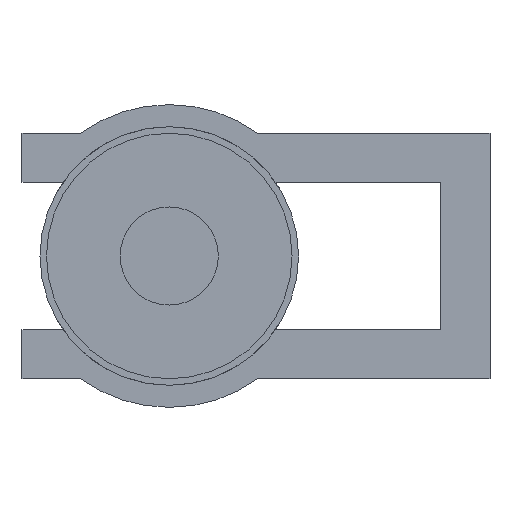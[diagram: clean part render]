
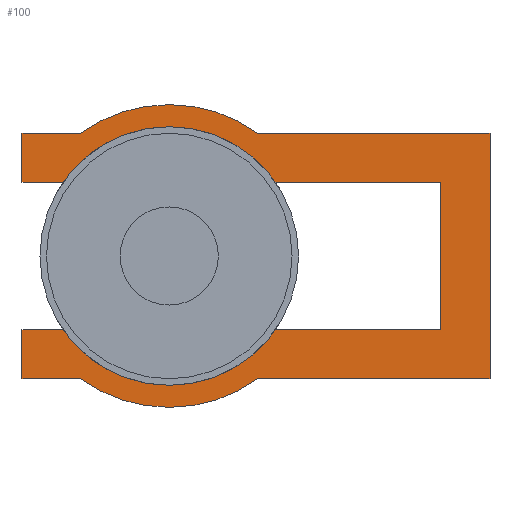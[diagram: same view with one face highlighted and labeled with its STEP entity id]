
A CAD part, left-side view. The second image highlights one B-rep face of the part: STEP entity #100.
In plain terms, the highlighted planar face has unit normal (-1, 0, 0).
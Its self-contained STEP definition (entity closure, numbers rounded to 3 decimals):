
#100=ADVANCED_FACE('',(#190),#191,.F.);
#190=FACE_OUTER_BOUND('',#327,.T.);
#191=PLANE('',#328);
#327=EDGE_LOOP('',(#569,#570,#571,#572,#573,#574,#575,#576,#577,#578,#579,#580,#581,#582,#583,#584));
#328=AXIS2_PLACEMENT_3D('',#585,#586,#587);
#569=ORIENTED_EDGE('',*,*,#844,.F.);
#570=ORIENTED_EDGE('',*,*,#896,.T.);
#571=ORIENTED_EDGE('',*,*,#897,.F.);
#572=ORIENTED_EDGE('',*,*,#898,.F.);
#573=ORIENTED_EDGE('',*,*,#899,.F.);
#574=ORIENTED_EDGE('',*,*,#900,.T.);
#575=ORIENTED_EDGE('',*,*,#891,.F.);
#576=ORIENTED_EDGE('',*,*,#901,.F.);
#577=ORIENTED_EDGE('',*,*,#902,.F.);
#578=ORIENTED_EDGE('',*,*,#863,.F.);
#579=ORIENTED_EDGE('',*,*,#895,.F.);
#580=ORIENTED_EDGE('',*,*,#903,.F.);
#581=ORIENTED_EDGE('',*,*,#904,.F.);
#582=ORIENTED_EDGE('',*,*,#905,.F.);
#583=ORIENTED_EDGE('',*,*,#878,.F.);
#584=ORIENTED_EDGE('',*,*,#872,.F.);
#585=CARTESIAN_POINT('',(-16.4,0.0,0.0));
#586=DIRECTION('',(1.0,0.0,0.0));
#587=DIRECTION('',(0.0,1.0,0.0));
#844=EDGE_CURVE('',#991,#993,#994,.T.);
#863=EDGE_CURVE('',#1027,#1029,#1030,.T.);
#872=EDGE_CURVE('',#993,#1044,#1045,.T.);
#878=EDGE_CURVE('',#1044,#1054,#1055,.T.);
#891=EDGE_CURVE('',#1076,#1078,#1079,.T.);
#895=EDGE_CURVE('',#1083,#1027,#1085,.T.);
#896=EDGE_CURVE('',#991,#1086,#1087,.T.);
#897=EDGE_CURVE('',#1088,#1086,#1089,.T.);
#898=EDGE_CURVE('',#1090,#1088,#1091,.T.);
#899=EDGE_CURVE('',#1092,#1090,#1093,.T.);
#900=EDGE_CURVE('',#1092,#1078,#1094,.T.);
#901=EDGE_CURVE('',#1095,#1076,#1096,.T.);
#902=EDGE_CURVE('',#1029,#1095,#1097,.T.);
#903=EDGE_CURVE('',#1098,#1083,#1099,.T.);
#904=EDGE_CURVE('',#1100,#1098,#1101,.T.);
#905=EDGE_CURVE('',#1054,#1100,#1102,.T.);
#991=VERTEX_POINT('',#1220);
#993=VERTEX_POINT('',#1223);
#994=LINE('',#1224,#1225);
#1027=VERTEX_POINT('',#1270);
#1029=VERTEX_POINT('',#1273);
#1030=CIRCLE('',#1274,9.25);
#1044=VERTEX_POINT('',#1292);
#1045=LINE('',#1293,#1294);
#1054=VERTEX_POINT('',#1308);
#1055=LINE('',#1309,#1310);
#1076=VERTEX_POINT('',#1337);
#1078=VERTEX_POINT('',#1340);
#1079=LINE('',#1341,#1342);
#1083=VERTEX_POINT('',#1348);
#1085=LINE('',#1351,#1352);
#1086=VERTEX_POINT('',#1353);
#1087=CIRCLE('',#1354,7.9);
#1088=VERTEX_POINT('',#1355);
#1089=LINE('',#1356,#1357);
#1090=VERTEX_POINT('',#1358);
#1091=LINE('',#1359,#1360);
#1092=VERTEX_POINT('',#1361);
#1093=LINE('',#1362,#1363);
#1094=CIRCLE('',#1364,7.9);
#1095=VERTEX_POINT('',#1365);
#1096=LINE('',#1366,#1367);
#1097=LINE('',#1368,#1369);
#1098=VERTEX_POINT('',#1370);
#1099=LINE('',#1371,#1372);
#1100=VERTEX_POINT('',#1373);
#1101=LINE('',#1374,#1375);
#1102=CIRCLE('',#1376,9.25);
#1220=CARTESIAN_POINT('',(-16.4,6.493,4.5));
#1223=CARTESIAN_POINT('',(-16.4,9.0,4.5));
#1224=CARTESIAN_POINT('',(-16.4,4.337,4.5));
#1225=VECTOR('',#1506,1.0);
#1270=CARTESIAN_POINT('',(-16.4,-5.414,-7.5));
#1273=CARTESIAN_POINT('',(-16.4,5.414,-7.5));
#1274=AXIS2_PLACEMENT_3D('',#1535,#1536,#1537);
#1292=CARTESIAN_POINT('',(-16.4,9.0,7.5));
#1293=CARTESIAN_POINT('',(-16.4,9.0,4.5));
#1294=VECTOR('',#1554,1.0);
#1308=CARTESIAN_POINT('',(-16.4,5.414,7.5));
#1309=CARTESIAN_POINT('',(-16.4,9.0,7.5));
#1310=VECTOR('',#1560,1.0);
#1337=CARTESIAN_POINT('',(-16.4,9.0,-4.5));
#1340=CARTESIAN_POINT('',(-16.4,6.493,-4.5));
#1341=CARTESIAN_POINT('',(-16.4,9.0,-4.5));
#1342=VECTOR('',#1583,1.0);
#1348=CARTESIAN_POINT('',(-16.4,-19.6,-7.5));
#1351=CARTESIAN_POINT('',(-16.4,-19.6,-7.5));
#1352=VECTOR('',#1587,1.0);
#1353=CARTESIAN_POINT('',(-16.4,-6.493,4.5));
#1354=AXIS2_PLACEMENT_3D('',#1588,#1589,#1590);
#1355=CARTESIAN_POINT('',(-16.4,-16.6,4.5));
#1356=CARTESIAN_POINT('',(-16.4,-16.6,4.5));
#1357=VECTOR('',#1591,1.0);
#1358=CARTESIAN_POINT('',(-16.4,-16.6,-4.5));
#1359=CARTESIAN_POINT('',(-16.4,-16.6,-4.5));
#1360=VECTOR('',#1592,1.0);
#1361=CARTESIAN_POINT('',(-16.4,-6.493,-4.5));
#1362=CARTESIAN_POINT('',(-16.4,-4.337,-4.5));
#1363=VECTOR('',#1593,1.0);
#1364=AXIS2_PLACEMENT_3D('',#1594,#1595,#1596);
#1365=CARTESIAN_POINT('',(-16.4,9.0,-7.5));
#1366=CARTESIAN_POINT('',(-16.4,9.0,-7.5));
#1367=VECTOR('',#1597,1.0);
#1368=CARTESIAN_POINT('',(-16.4,5.414,-7.5));
#1369=VECTOR('',#1598,1.0);
#1370=CARTESIAN_POINT('',(-16.4,-19.6,7.5));
#1371=CARTESIAN_POINT('',(-16.4,-19.6,7.5));
#1372=VECTOR('',#1599,1.0);
#1373=CARTESIAN_POINT('',(-16.4,-5.414,7.5));
#1374=CARTESIAN_POINT('',(-16.4,-5.414,7.5));
#1375=VECTOR('',#1600,1.0);
#1376=AXIS2_PLACEMENT_3D('',#1601,#1602,#1603);
#1506=DIRECTION('',(0.0,1.0,0.0));
#1535=CARTESIAN_POINT('',(-16.4,0.0,0.));
#1536=DIRECTION('',(1.0,0.0,0.0));
#1537=DIRECTION('',(0.0,0.0,-1.0));
#1554=DIRECTION('',(0.0,0.0,1.0));
#1560=DIRECTION('',(0.0,-1.0,0.0));
#1583=DIRECTION('',(0.0,-1.0,0.0));
#1587=DIRECTION('',(0.0,1.0,0.0));
#1588=CARTESIAN_POINT('',(-16.4,0.,0.0));
#1589=DIRECTION('',(1.0,0.0,0.0));
#1590=DIRECTION('',(0.0,0.0,-1.0));
#1591=DIRECTION('',(0.0,1.0,0.0));
#1592=DIRECTION('',(0.0,0.0,1.0));
#1593=DIRECTION('',(0.0,-1.0,0.0));
#1594=CARTESIAN_POINT('',(-16.4,0.,0.0));
#1595=DIRECTION('',(1.0,0.0,0.0));
#1596=DIRECTION('',(0.0,0.0,-1.0));
#1597=DIRECTION('',(0.0,0.0,1.0));
#1598=DIRECTION('',(0.0,1.0,0.0));
#1599=DIRECTION('',(0.0,0.0,-1.0));
#1600=DIRECTION('',(0.0,-1.0,0.0));
#1601=CARTESIAN_POINT('',(-16.4,0.0,0.0));
#1602=DIRECTION('',(1.0,0.0,0.0));
#1603=DIRECTION('',(0.0,0.0,-1.0));
